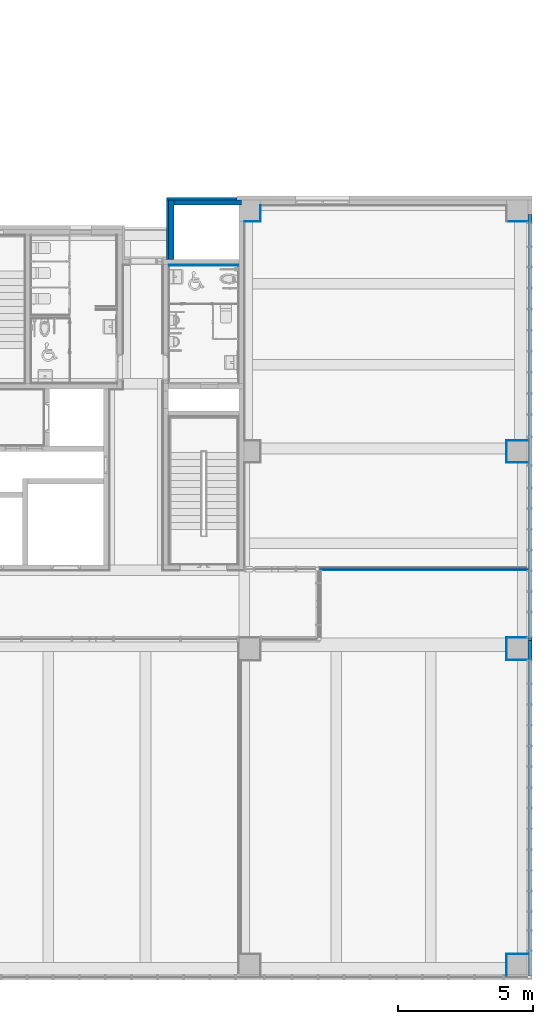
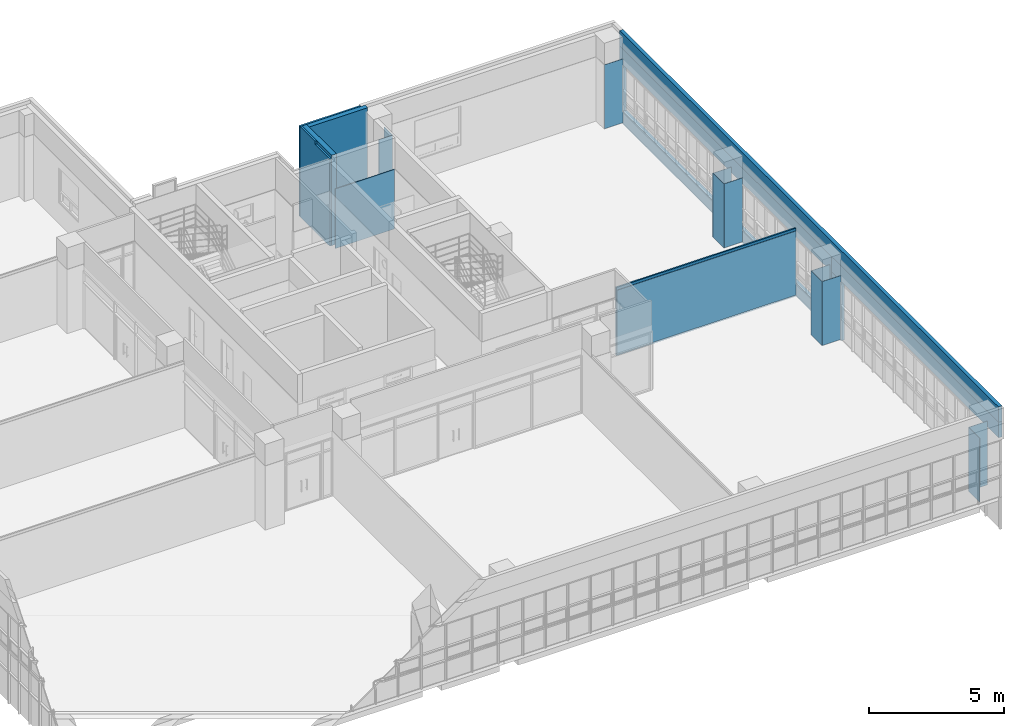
# One storey, part 64 of 81: 22 walls, 5 openings.
"""IFC2X3 building model written with IfcOpenShell, lengths in millimetres."""

import ifcopenshell
import ifcopenshell.guid

model = None  # the IFC model being written
_history = None  # IfcOwnerHistory: only IFC2X3 demands one
_inside = {}  # id of a spatial element -> (the spatial element, [elements in it])
_under = {}  # id of a project, library or spatial element -> (it, [spatial elements below it])
_declared = {}  # id of a project -> (the project, [libraries it declares])
_typed = {}  # id of a type object -> (the type object, [elements of that type])
_made_of = {}  # id of a material, layer set ... -> (it, [elements and type objects made of it])


def new_model(schema):
    """Start an empty IFC model of exactly this schema.

    Asked for "IFC4X3", IfcOpenShell would pick the latest addendum, in which some entities
    have other attributes; the version numbers below select the first issue.
    IFC2X3 requires an IfcOwnerHistory on every rooted entity: one is made here for all.
    """
    global model, _history
    if schema == "IFC4X3":
        model = ifcopenshell.file(schema_version=(4, 3, 0, 0))
    else:
        model = ifcopenshell.file(schema=schema)
    _inside.clear()
    _under.clear()
    _declared.clear()
    _typed.clear()
    _made_of.clear()
    _history = None
    if model.schema == "IFC2X3":
        org = make("IfcOrganization", Name="unknown")
        user = make(
            "IfcPersonAndOrganization",
            ThePerson=make("IfcPerson", FamilyName="unknown"),
            TheOrganization=org,
        )
        app = make(
            "IfcApplication",
            ApplicationDeveloper=org,
            Version="unknown",
            ApplicationFullName="unknown",
            ApplicationIdentifier="unknown",
        )
        _history = make(
            "IfcOwnerHistory",
            OwningUser=user,
            OwningApplication=app,
            ChangeAction="ADDED",
            CreationDate=0,
        )
    return model


def make(cls, **values):
    """One entity of the class cls with the attributes given. An attribute that is None is left unset."""
    return model.create_entity(
        cls, **{name: value for name, value in values.items() if value is not None}
    )


def entity(cls, *values):
    """Any entity or typed value of the class cls, its attributes in the order of the schema. None: left unset."""
    e = model.create_entity(cls)
    for i, value in enumerate(values):
        if value is not None:
            e[i] = value
    return e


def rooted(cls, **values):
    """An entity with a GlobalId (a new one), such as an element, a storey or a relation."""
    return make(cls, GlobalId=ifcopenshell.guid.new(), OwnerHistory=_history, **values)


def si_unit(unit_type, name, prefix=None):
    """IfcSIUnit, for example si_unit("LENGTHUNIT", "METRE", prefix="MILLI")."""
    return make("IfcSIUnit", UnitType=unit_type, Prefix=prefix, Name=name)


def converted_unit(unit_type, name, factor, base, dimensions=None, offset=None):
    """IfcConversionBasedUnit, such as the inch: factor (a typed value) times the base unit."""
    return make(
        "IfcConversionBasedUnit"
        if offset is None
        else "IfcConversionBasedUnitWithOffset",
        ConversionOffset=offset,
        Dimensions=None
        if dimensions is None
        else entity("IfcDimensionalExponents", *dimensions),
        UnitType=unit_type,
        Name=name,
        ConversionFactor=make(
            "IfcMeasureWithUnit", ValueComponent=factor, UnitComponent=base
        ),
    )


def derived_unit(unit_type, elements):
    """IfcDerivedUnit: a product of units, each with its exponent."""
    return make(
        "IfcDerivedUnit",
        Elements=[
            make("IfcDerivedUnitElement", Unit=unit, Exponent=power)
            for unit, power in elements
        ],
        UnitType=unit_type,
    )


def assignment(units):
    """IfcUnitAssignment: the units of a project."""
    return None if units is None else make("IfcUnitAssignment", Units=units)


def point(xyz):
    """IfcCartesianPoint."""
    return None if xyz is None else make("IfcCartesianPoint", Coordinates=xyz)


def direction(xyz):
    """IfcDirection."""
    return None if xyz is None else make("IfcDirection", DirectionRatios=xyz)


def frame(location, z_axis=None, x_axis=None):
    """IfcAxis2Placement3D, a coordinate frame: its origin and axes. An axis left out is left unset."""
    return make(
        "IfcAxis2Placement3D",
        Location=point(location),
        Axis=direction(z_axis),
        RefDirection=direction(x_axis),
    )


def frame_2d(location, x_axis=None):
    """IfcAxis2Placement2D, a coordinate frame in the plane: its origin and x axis."""
    return make(
        "IfcAxis2Placement2D", Location=point(location), RefDirection=direction(x_axis)
    )


def origin():
    """The frame at (0, 0, 0) with its axes left unset."""
    return frame((0.0, 0.0, 0.0))


def place(relative_to, where):
    """IfcLocalPlacement: puts the frame where relative to a parent placement (None: the world)."""
    return make(
        "IfcLocalPlacement", PlacementRelTo=relative_to, RelativePlacement=where
    )


def context(
    kind, dimensions, precision=None, world=None, true_north=None, identifier=None
):
    """IfcGeometricRepresentationContext, for example the 3D "Model" context."""
    return make(
        "IfcGeometricRepresentationContext",
        ContextIdentifier=identifier,
        ContextType=kind,
        CoordinateSpaceDimension=dimensions,
        Precision=precision,
        WorldCoordinateSystem=world,
        TrueNorth=true_north,
    )


def subcontext(parent, identifier, kind, view, scale=None):
    """IfcGeometricRepresentationSubContext, for example "Body" below "Model"."""
    return make(
        "IfcGeometricRepresentationSubContext",
        ContextIdentifier=identifier,
        ContextType=kind,
        ParentContext=parent,
        TargetScale=scale,
        TargetView=view,
    )


def project(units=None, contexts=None):
    """IfcProject with its units and contexts."""
    return rooted(
        "IfcProject",
        Name="project",
        RepresentationContexts=contexts,
        UnitsInContext=assignment(units),
    )


def spatial(cls, under=None, at=None, **own):
    """A site, building, storey or space (cls), placed at a placement, below another one or the project."""
    s = rooted(cls, ObjectPlacement=at, **own)
    if under is not None:
        _under.setdefault(under.id(), (under, []))[1].append(s)
    return s


def polyline(points):
    """IfcPolyline through the points."""
    return make("IfcPolyline", Points=[point(p) for p in points])


def profile(cls, at=None, kind="AREA", **sizes):
    """A parametric profile (cls). Its sizes go by their IFC names, for example OverallWidth=200.0."""
    return make(cls, ProfileType=kind, Position=at, **sizes)


def rectangle(**sizes):
    """IfcRectangleProfileDef."""
    return profile("IfcRectangleProfileDef", **sizes)


def outline(outer, holes=None, kind="AREA"):
    """IfcArbitraryClosedProfileDef: a profile drawn as a closed curve; with holes, ...WithVoids."""
    if holes is None:
        return make("IfcArbitraryClosedProfileDef", ProfileType=kind, OuterCurve=outer)
    return make(
        "IfcArbitraryProfileDefWithVoids",
        ProfileType=kind,
        OuterCurve=outer,
        InnerCurves=holes,
    )


def extrude(swept, where, along, depth):
    """IfcExtrudedAreaSolid: the profile swept, set in the frame where, extruded along a direction by depth."""
    return make(
        "IfcExtrudedAreaSolid",
        SweptArea=swept,
        Position=where,
        ExtrudedDirection=direction(along),
        Depth=depth,
    )


def clip(a, b, op="DIFFERENCE"):
    """IfcBooleanClippingResult: the solid a cut by the half space b."""
    return make(
        "IfcBooleanClippingResult", Operator=op, FirstOperand=a, SecondOperand=b
    )


def bounded_halfspace(plane, agree, where, boundary):
    """IfcPolygonalBoundedHalfSpace: a half space limited to a polygon's prism."""
    return make(
        "IfcPolygonalBoundedHalfSpace",
        BaseSurface=make("IfcPlane", Position=plane),
        AgreementFlag=agree,
        Position=where,
        PolygonalBoundary=boundary,
    )


def shape(context_of_items, identifier, shape_type, items):
    """IfcShapeRepresentation: the items that make up one representation, for example the "Body"."""
    return make(
        "IfcShapeRepresentation",
        ContextOfItems=context_of_items,
        RepresentationIdentifier=identifier,
        RepresentationType=shape_type,
        Items=items,
    )


def material(Name=None, Category=None):
    """IfcMaterial."""
    return make("IfcMaterial", Name=Name, Category=Category)


def layer(
    of_material, thickness, ventilated=None, Name=None, Category=None, Priority=None
):
    """IfcMaterialLayer: one layer of a wall or slab, of a material (None: an air gap)."""
    return make(
        "IfcMaterialLayer",
        Material=of_material,
        LayerThickness=thickness,
        IsVentilated=ventilated,
        Name=Name,
        Category=Category,
        Priority=Priority,
    )


def layer_set(layers, Name=None):
    """IfcMaterialLayerSet."""
    return make("IfcMaterialLayerSet", MaterialLayers=layers, LayerSetName=Name)


def layer_usage(for_layer_set, set_direction, sense, offset, extent=None):
    """IfcMaterialLayerSetUsage: how a layer set lies in its element."""
    return make(
        "IfcMaterialLayerSetUsage",
        ForLayerSet=for_layer_set,
        LayerSetDirection=set_direction,
        DirectionSense=sense,
        OffsetFromReferenceLine=offset,
        ReferenceExtent=extent,
    )


def made_of(thing, what):
    """Note that an element or type object is made of a material, layer set ...; save() writes the relation."""
    if what is not None:
        _made_of.setdefault(what.id(), (what, []))[1].append(thing)
    return thing


def type_object(cls, material=None, **own):
    """A type object (cls), such as IfcWallType, which elements share."""
    return made_of(rooted(cls, **own), material)


def element(
    cls,
    number,
    at=None,
    inside=None,
    cuts=None,
    type_object=None,
    material=None,
    context=None,
    identifier="Body",
    shape_type=None,
    held_by="IfcProductDefinitionShape",
    body=None,
    shapes=None,
    **own,
):
    """One element of the class cls, such as IfcWall. Its Tag is "e" and its number.

    at: its placement. inside: the storey or other place that contains it. cuts: it is an
    opening in that element (IfcRelVoidsElement). A single representation is given by context,
    identifier, shape_type and body (its items); several are given by shapes. held_by: the class
    of the entity that holds the representations. save() writes the other relations.
    """
    e = rooted(cls, Tag="e%d" % number, ObjectPlacement=at, **own)
    if body is not None:
        shapes = [shape(context, identifier, shape_type, body)]
    if shapes is not None:
        e.Representation = make(held_by, Representations=shapes)
    if inside is not None:
        _inside.setdefault(inside.id(), (inside, []))[1].append(e)
    if cuts is not None:
        rooted(
            "IfcRelVoidsElement", RelatingBuildingElement=cuts, RelatedOpeningElement=e
        )
    if type_object is not None:
        _typed.setdefault(type_object.id(), (type_object, []))[1].append(e)
    return made_of(e, material)


def aggregate(whole, parts):
    """IfcRelAggregates: a whole, such as a stair, and the parts it consists of."""
    return rooted("IfcRelAggregates", RelatingObject=whole, RelatedObjects=parts)


def save(model, path):
    """Write the relations noted so far, then the file.

    IfcRelAggregates (storeys below a building ...), IfcRelContainedInSpatialStructure (elements
    in a storey), IfcRelDefinesByType, IfcRelAssociatesMaterial and IfcRelDeclares: one each for
    every whole, place, type object, material and project.
    """
    for whole, parts in _under.values():
        aggregate(whole, parts)
    for where, things in _inside.values():
        rooted(
            "IfcRelContainedInSpatialStructure",
            RelatedElements=things,
            RelatingStructure=where,
        )
    for kind, things in _typed.values():
        rooted("IfcRelDefinesByType", RelatedObjects=things, RelatingType=kind)
    for what, things in _made_of.values():
        rooted("IfcRelAssociatesMaterial", RelatedObjects=things, RelatingMaterial=what)
    for by, libraries in _declared.values():
        rooted("IfcRelDeclares", RelatingContext=by, RelatedDefinitions=libraries)
    model.write(path)


model = new_model("IFC2X3")

# Units and contexts
model_context = context("Model", 3, precision=0.01, world=origin(), true_north=direction((6.123031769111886e-17, 1.0)))
body_context = subcontext(model_context, "Body", "Model", "MODEL_VIEW")
ifc_project = project(units=[si_unit("LENGTHUNIT", "METRE", prefix="MILLI"), si_unit("AREAUNIT", "SQUARE_METRE"), si_unit("VOLUMEUNIT", "CUBIC_METRE"), converted_unit("PLANEANGLEUNIT", "DEGREE", entity("IfcRatioMeasure", 0.017453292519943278), si_unit("PLANEANGLEUNIT", "RADIAN"), dimensions=[0, 0, 0, 0, 0, 0, 0]), si_unit("MASSUNIT", "GRAM", prefix="KILO"), derived_unit("MASSDENSITYUNIT", [(si_unit("MASSUNIT", "GRAM", prefix="KILO"), 1), (si_unit("LENGTHUNIT", "METRE"), -3)]), derived_unit("MOMENTOFINERTIAUNIT", [(si_unit("LENGTHUNIT", "METRE"), 4)]), si_unit("TIMEUNIT", "SECOND"), si_unit("FREQUENCYUNIT", "HERTZ"), si_unit("THERMODYNAMICTEMPERATUREUNIT", "DEGREE_CELSIUS"), derived_unit("THERMALTRANSMITTANCEUNIT", [(si_unit("MASSUNIT", "GRAM", prefix="KILO"), 1), (si_unit("THERMODYNAMICTEMPERATUREUNIT", "KELVIN"), -1), (si_unit("TIMEUNIT", "SECOND"), -3)]), derived_unit("VOLUMETRICFLOWRATEUNIT", [(si_unit("LENGTHUNIT", "METRE"), 3), (si_unit("TIMEUNIT", "SECOND"), -1)]), derived_unit("MASSFLOWRATEUNIT", [(si_unit("MASSUNIT", "GRAM", prefix="KILO"), 1), (si_unit("TIMEUNIT", "SECOND"), -1)]), derived_unit("ROTATIONALFREQUENCYUNIT", [(si_unit("TIMEUNIT", "SECOND"), -1)]), si_unit("ELECTRICCURRENTUNIT", "AMPERE"), si_unit("ELECTRICVOLTAGEUNIT", "VOLT"), si_unit("POWERUNIT", "WATT"), si_unit("FORCEUNIT", "NEWTON", prefix="KILO"), si_unit("ILLUMINANCEUNIT", "LUX"), si_unit("LUMINOUSFLUXUNIT", "LUMEN"), si_unit("LUMINOUSINTENSITYUNIT", "CANDELA"), derived_unit("USERDEFINED", [(si_unit("MASSUNIT", "GRAM", prefix="KILO"), -1), (si_unit("LENGTHUNIT", "METRE"), -2), (si_unit("TIMEUNIT", "SECOND"), 3), (si_unit("LUMINOUSFLUXUNIT", "LUMEN"), 1)]), derived_unit("SOUNDPOWERUNIT", [(si_unit("MASSUNIT", "GRAM", prefix="KILO"), 1), (si_unit("LENGTHUNIT", "METRE"), 2), (si_unit("TIMEUNIT", "SECOND"), -3)]), derived_unit("SOUNDPRESSUREUNIT", [(si_unit("MASSUNIT", "GRAM", prefix="KILO"), 1), (si_unit("LENGTHUNIT", "METRE"), -1), (si_unit("TIMEUNIT", "SECOND"), -2)]), derived_unit("LINEARVELOCITYUNIT", [(si_unit("LENGTHUNIT", "METRE"), 1), (si_unit("TIMEUNIT", "SECOND"), -1)]), si_unit("PRESSUREUNIT", "PASCAL"), derived_unit("USERDEFINED", [(si_unit("LENGTHUNIT", "METRE"), -2), (si_unit("MASSUNIT", "GRAM", prefix="KILO"), 1), (si_unit("TIMEUNIT", "SECOND"), -2)]), derived_unit("LINEARFORCEUNIT", [(si_unit("MASSUNIT", "GRAM", prefix="KILO"), 1), (si_unit("LENGTHUNIT", "METRE"), 1), (si_unit("TIMEUNIT", "SECOND"), -2), (si_unit("LENGTHUNIT", "METRE"), -1)]), derived_unit("PLANARFORCEUNIT", [(si_unit("MASSUNIT", "GRAM", prefix="KILO"), 1), (si_unit("LENGTHUNIT", "METRE"), 1), (si_unit("TIMEUNIT", "SECOND"), -2), (si_unit("LENGTHUNIT", "METRE"), -2)])], contexts=[model_context])

# Site, building, storey
site_placement = place(None, frame((-14167.972527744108, -657.2125860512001, 0.0)))
site = spatial("IfcSite", under=ifc_project, at=site_placement, Name="Default", CompositionType="ELEMENT")
building_placement = place(site_placement, origin())
building = spatial("IfcBuilding", under=site, at=building_placement, Name="Sample Building", CompositionType="ELEMENT")
storey_placement = place(building_placement, frame((0.0, 0.0, 13400.0)))
storey = spatial("IfcBuildingStorey", under=building, at=storey_placement, Name="지상 4층", CompositionType="ELEMENT", Elevation=13400.00000000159)

# Walls
ifc_material_1 = material(Name="KBIMS-콘크리트")
ifc_layer_1 = layer(ifc_material_1, 200.0)
ifc_layer_set_1 = layer_set([ifc_layer_1], Name="기본 벽:WA111-철근콘크리트구조 벽 200mm_CW1")
ifc_layer_usage_1 = layer_usage(ifc_layer_set_1, "AXIS2", "NEGATIVE", 100.0)
wall_type_1 = type_object("IfcWallType", Name="기본 벽:WA111-철근콘크리트구조 벽 200mm_CW1", PredefinedType="STANDARD", material=ifc_layer_set_1)
wall_1_placement = place(storey_placement, frame((38267.97249112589, 27057.21229514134, -2.36498181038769e-09), z_axis=(0.0, 0.0, 1.0), x_axis=(0.0, 1.0, 0.0)))
element("IfcWallStandardCase", 1, at=wall_1_placement, inside=storey, type_object=wall_type_1, material=ifc_layer_usage_1, Name="기본 벽:WA111-철근콘크리트구조 벽 200mm_CW1", ObjectType="기본 벽:WA111-철근콘크리트구조 벽 200mm_CW1", context=body_context, shape_type="SweptSolid", body=[
    extrude(rectangle(XDim=2200.000012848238, YDim=199.99999999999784, at=frame_2d((1100.000006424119, 0.0), x_axis=(-1.0, 0.0))), origin(), (0.0, 0.0, 1.0), 4100.000000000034),
])
ifc_layer_usage_2 = layer_usage(ifc_layer_set_1, "AXIS2", "NEGATIVE", 100.0)
wall_2_placement = place(storey_placement, frame((38367.97249112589, 29157.21230798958, -2.36498181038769e-09)))
element("IfcWallStandardCase", 2, at=wall_2_placement, inside=storey, type_object=wall_type_1, material=ifc_layer_usage_2, Name="기본 벽:WA111-철근콘크리트구조 벽 200mm_CW1", ObjectType="기본 벽:WA111-철근콘크리트구조 벽 200mm_CW1", context=body_context, shape_type="SweptSolid", body=[
    extrude(rectangle(XDim=2499.991307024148, YDim=199.99999999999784, at=frame_2d((1249.995653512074, 0.0), x_axis=(-1.0, 0.0))), origin(), (0.0, 0.0, 1.0), 4100.000000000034),
])
ifc_material_2 = material(Name="KBIMS-화강석 잔다듬")
ifc_layer_2 = layer(ifc_material_2, 80.0)
ifc_layer_set_2 = layer_set([ifc_layer_2], Name="기본 벽:WA313-화강석잔다듬 벽 (30, 건식50) 80mm")
ifc_layer_usage_3 = layer_usage(ifc_layer_set_2, "AXIS2", "POSITIVE", -40.0)
wall_type_2 = type_object("IfcWallType", Name="기본 벽:WA313-화강석잔다듬 벽 (30, 건식50) 80mm", PredefinedType="STANDARD", material=ifc_layer_set_2)
wall_3_placement = place(storey_placement, frame((40692.96379815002, 29297.212295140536, -2.3000097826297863e-09), z_axis=(0.0, 0.0, 1.0), x_axis=(-1.0, 0.0, 0.0)))
element("IfcWallStandardCase", 3, at=wall_3_placement, inside=storey, type_object=wall_type_2, material=ifc_layer_usage_3, Name="기본 벽:WA313-화강석잔다듬 벽 (30, 건식50) 80mm", ObjectType="기본 벽:WA313-화강석잔다듬 벽 (30, 건식50) 80mm", context=body_context, shape_type="SweptSolid", body=[
    extrude(rectangle(XDim=2604.991307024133, YDim=79.99999999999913, at=frame_2d((1302.4956535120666, 6.750155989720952e-14), x_axis=(-1.0, 0.0))), origin(), (0.0, 0.0, 1.0), 4099.999999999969),
])
ifc_layer_usage_4 = layer_usage(ifc_layer_set_2, "AXIS2", "POSITIVE", -40.0)
wall_4_placement = place(storey_placement, frame((38127.97249112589, 29257.21229514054, -2.3000097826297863e-09), z_axis=(0.0, 0.0, 1.0), x_axis=(0.0, -1.0, 0.0)))
element("IfcWallStandardCase", 4, at=wall_4_placement, inside=storey, type_object=wall_type_2, material=ifc_layer_usage_4, Name="기본 벽:WA313-화강석잔다듬 벽 (30, 건식50) 80mm", ObjectType="기본 벽:WA313-화강석잔다듬 벽 (30, 건식50) 80mm", context=body_context, shape_type="Clipping", body=[
    clip(clip(extrude(rectangle(XDim=2199.999999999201, YDim=79.99999999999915, at=frame_2d((1099.9999999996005, 2.2737367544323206e-13), x_axis=(-1.0, 0.0))), origin(), (0.0, 0.0, 1.0), 4099.999999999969), bounded_halfspace(frame((1100.0001779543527, 40.0, 3950.0), z_axis=(0.0, 0.0, -1.0), x_axis=(0.0, 1.0, 0.0)), True, frame((1100.0001779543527, 40.0, 3950.0), z_axis=(0.0, 0.0, -1.0), x_axis=(0.0, 1.0, 0.0)), polyline([(0.0, 0.0), (-2.6400300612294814e-09, 335279.94575926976), (-24384.0, 335279.94575926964), (-24384.0, 310895.94575926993), (-24384.0, 0.0), (0.0, 0.0)]))), bounded_halfspace(frame((1100.0001779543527, -40.0, 3950.0), z_axis=(-1.0, 0.0, 0.0), x_axis=(0.0, 0.0, 1.0)), True, frame((1100.0001779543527, -40.0, 3950.0), z_axis=(-1.0, 0.0, 0.0), x_axis=(0.0, 0.0, 1.0)), polyline([(0.0, 0.0), (45720.0, 0.0), (45720.0, 24384.0), (0.0, 24384.0), (0.0, 0.0)]))),
])
ifc_material_3 = material(Name="WA240-ALC블록벽")
ifc_layer_3 = layer(ifc_material_3, 35.0)
ifc_material_4 = material(Name="WA795-(STEEL)BRACKET")
ifc_layer_4 = layer(ifc_material_4, 65.0)
ifc_material_5 = material(Name="WA821-압출스티로폼 벽 (본드붙임, 비중0.03) 50mm")
ifc_layer_5 = layer(ifc_material_5, 50.0)
ifc_layer_set_3 = layer_set([ifc_layer_3, ifc_layer_4, ifc_layer_5], Name="기본 벽:A2-22-02A-압출스티로폼, BRACKET(STEEL), ALC블록 (150mm)")
ifc_layer_usage_5 = layer_usage(ifc_layer_set_3, "AXIS2", "POSITIVE", -75.0)
wall_type_3 = type_object("IfcWallType", Name="기본 벽:A2-22-02A-압출스티로폼, BRACKET(STEEL), ALC블록 (150mm)", PredefinedType="STANDARD", material=ifc_layer_set_3)
wall_5_placement = place(storey_placement, frame((51542.96382893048, 557.212295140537, 3400.0), z_axis=(0.0, 0.0, 1.0), x_axis=(0.0, 1.0, 0.0)))
element("IfcWallStandardCase", 5, at=wall_5_placement, inside=storey, type_object=wall_type_3, material=ifc_layer_usage_5, Name="기본 벽:A2-22-02A-압출스티로폼, BRACKET(STEEL), ALC블록 (150mm)", ObjectType="기본 벽:A2-22-02A-압출스티로폼, BRACKET(STEEL), ALC블록 (150mm)", context=body_context, shape_type="SweptSolid", body=[
    extrude(rectangle(XDim=28150.000087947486, YDim=150.00000000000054, at=frame_2d((14075.000043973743, 0.0), x_axis=(-1.0, 0.0))), origin(), (0.0, 0.0, 1.0), 700.0000000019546),
])

# Wall, opening
ifc_layer_usage_6 = layer_usage(ifc_layer_set_3, "AXIS2", "POSITIVE", -75.0)
wall_6_placement = place(storey_placement, frame((51542.96382893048, 12957.212586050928, 0.0), z_axis=(0.0, 0.0, 1.0), x_axis=(0.0, 1.0, 0.0)))
wall_6 = element("IfcWallStandardCase", 6, at=wall_6_placement, inside=storey, type_object=wall_type_3, material=ifc_layer_usage_6, Name="기본 벽:A2-22-02A-압출스티로폼, BRACKET(STEEL), ALC블록 (150mm)", ObjectType="기본 벽:A2-22-02A-압출스티로폼, BRACKET(STEEL), ALC블록 (150mm)", context=body_context, shape_type="SweptSolid", body=[
    extrude(rectangle(XDim=15749.999797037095, YDim=150.00000000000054, at=frame_2d((7874.9998985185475, 0.0), x_axis=(-1.0, 0.0))), origin(), (0.0, 0.0, 1.0), 3399.9999999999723),
])
opening_1_placement = place(wall_6_placement, origin())
element("IfcOpeningElement", 7, at=opening_1_placement, cuts=wall_6, Name="기본 벽:A2-22-02A-압출스티로폼, BRACKET(STEEL), ALC블록 (150mm)", ObjectType="Opening", context=body_context, shape_type="SweptSolid", body=[
    extrude(rectangle(XDim=2099.9999999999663, YDim=15382.0003218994, at=frame_2d((0.0, -1.0231815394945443e-12), x_axis=(0.0, 1.0))), frame((7790.999957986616, -227.4000000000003, 1650.0), z_axis=(0.0, 1.0, 0.0), x_axis=(-1.0, 0.0, 0.0)), (0.0, 0.0, 1.0), 454.8000000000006),
])

# Wall, openings
ifc_material_6 = material(Name="KBIMS-DRY WALL")
ifc_layer_6 = layer(ifc_material_6, 12.5)
ifc_material_7 = material(Name="KBIMS-경량철골벽틀")
ifc_layer_7 = layer(ifc_material_7, 50.0)
ifc_layer_set_4 = layer_set([ifc_layer_6, ifc_layer_7], Name="기본 벽:WA731-DRY WALL(C50, GS12.5mm) (1겹한면, GW50mm) 62.5mm")
ifc_layer_usage_7 = layer_usage(ifc_layer_set_4, "AXIS2", "NEGATIVE", 31.250000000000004)
wall_type_4 = type_object("IfcWallType", Name="기본 벽:WA731-DRY WALL(C50, GS12.5mm) (1겹한면, GW50mm) 62.5mm", PredefinedType="STANDARD", material=ifc_layer_set_4)
wall_7_placement = place(storey_placement, frame((43762.972491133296, 15615.962586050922, 0.0)))
wall_7 = element("IfcWallStandardCase", 8, at=wall_7_placement, inside=storey, type_object=wall_type_4, material=ifc_layer_usage_7, Name="기본 벽:WA731-DRY WALL(C50, GS12.5mm) (1겹한면, GW50mm) 62.5mm", ObjectType="기본 벽:WA731-DRY WALL(C50, GS12.5mm) (1겹한면, GW50mm) 62.5mm", context=body_context, shape_type="SweptSolid", body=[
    extrude(rectangle(XDim=7704.9913377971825, YDim=62.50000000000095, at=frame_2d((3852.4956688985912, -1.1901590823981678e-12), x_axis=(-1.0, 0.0))), origin(), (0.0, 0.0, 1.0), 3099.999999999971),
])
opening_2_placement = place(wall_7_placement, origin())
element("IfcOpeningElement", 9, at=opening_2_placement, cuts=wall_7, Name="기본 벽:WA731-DRY WALL(C50, GS12.5mm) (1겹한면, GW50mm) 62.5mm", ObjectType="Opening", context=body_context, shape_type="SweptSolid", body=[
    extrude(outline(polyline([(-1255.0065197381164, -1446.2500000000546), (1495.0021732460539, -1446.2500000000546), (1495.0021732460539, 1173.7499999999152), (630.0021732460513, 1173.7499999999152), (630.0021732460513, -901.2499999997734), (-869.9978267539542, -901.2499999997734), (-869.9978267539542, 1173.7499999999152), (-1255.0065197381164, 1173.7499999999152), (-1255.0065197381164, -1446.2500000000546)])), frame((-1540.0021732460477, -183.6499999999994, 1253.7499999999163), z_axis=(0.0, 1.0, 0.0), x_axis=(1.0, 0.0, 0.0)), (0.0, 0.0, 1.0), 367.300000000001),
])
opening_3_placement = place(wall_7_placement, origin())
element("IfcOpeningElement", 10, at=opening_3_placement, cuts=wall_7, Name="기본 벽:WA731-DRY WALL(C50, GS12.5mm) (1겹한면, GW50mm) 62.5mm", ObjectType="Opening", context=body_context, shape_type="SweptSolid", body=[
    extrude(rectangle(XDim=2099.9999999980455, YDim=1500.0000000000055, at=frame_2d((-8.640199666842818e-12, 0.0), x_axis=(0.0, 1.0))), frame((-1660.0, -1582.7499999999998, 1105.0), z_axis=(0.0, 1.0, 0.0), x_axis=(-1.0, 0.0, 0.0)), (0.0, 0.0, 1.0), 3048.0),
])

# Walls
ifc_material_8 = material(Name="WA785-금속외장패널")
ifc_layer_8 = layer(ifc_material_8, 25.0)
ifc_material_9 = material(Name="WA793-금속 긴결철물 벽")
ifc_layer_9 = layer(ifc_material_9, 75.0)
ifc_layer_10 = layer(ifc_material_5, 50.0)
ifc_layer_set_5 = layer_set([ifc_layer_8, ifc_layer_9, ifc_layer_10], Name="기본 벽:A2-26-01A-압출스티로폼, 금속 긴결철물, 금속외장패널 (150mm)")
ifc_layer_usage_8 = layer_usage(ifc_layer_set_5, "AXIS2", "POSITIVE", -75.0)
wall_type_5 = type_object("IfcWallType", Name="기본 벽:A2-26-01A-압출스티로폼, 금속 긴결철물, 금속외장패널 (150mm)", PredefinedType="STANDARD", material=ifc_layer_set_5)
wall_8_placement = place(storey_placement, frame((51542.96382893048, 557.2122951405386, 2700.0), z_axis=(0.0, 0.0, 1.0), x_axis=(0.0, 1.0, 0.0)))
element("IfcWallStandardCase", 11, at=wall_8_placement, inside=storey, type_object=wall_type_5, material=ifc_layer_usage_8, Name="기본 벽:A2-26-01A-압출스티로폼, 금속 긴결철물, 금속외장패널 (150mm)", ObjectType="기본 벽:A2-26-01A-압출스티로폼, 금속 긴결철물, 금속외장패널 (150mm)", context=body_context, shape_type="SweptSolid", body=[
    extrude(rectangle(XDim=150.00000000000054, YDim=12400.00029091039, at=frame_2d((0.0, 1833.3217279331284), x_axis=(1.0, 0.0))), frame((8033.321873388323, 0.0, 0.0), z_axis=(0.0, 0.0, 1.0), x_axis=(0.0, 1.0, 0.0)), (0.0, 0.0, 1.0), 700.0000000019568),
])
ifc_layer_usage_9 = layer_usage(ifc_layer_set_5, "AXIS2", "POSITIVE", -75.0)
wall_9_placement = place(storey_placement, frame((51542.96382893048, 12257.177624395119, 0.0), z_axis=(0.0, 0.0, 1.0), x_axis=(0.0, 1.0, 0.0)))
element("IfcWallStandardCase", 12, at=wall_9_placement, inside=storey, type_object=wall_type_5, material=ifc_layer_usage_9, Name="기본 벽:A2-26-01A-압출스티로폼, 금속 긴결철물, 금속외장패널 (150mm)", ObjectType="기본 벽:A2-26-01A-압출스티로폼, 금속 긴결철물, 금속외장패널 (150mm)", context=body_context, shape_type="SweptSolid", body=[
    extrude(rectangle(XDim=700.0349616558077, YDim=150.00000000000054, at=frame_2d((350.01748082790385, 0.0), x_axis=(-1.0, 0.0))), origin(), (0.0, 0.0, 1.0), 2699.9999999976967),
])
ifc_material_10 = material(Name="WA611-수성페인트 (내부) 벽 (3회)")
ifc_layer_11 = layer(ifc_material_10, 1.0)
ifc_material_11 = material(Name="WA551-시멘트모르타르 (내부) 벽 18mm")
ifc_layer_12 = layer(ifc_material_11, 16.0)
ifc_material_12 = material(Name="WA555-콘크리트면정리 벽 (내부)")
ifc_layer_13 = layer(ifc_material_12, 1.0)
ifc_layer_set_6 = layer_set([ifc_layer_11, ifc_layer_12, ifc_layer_13], Name="기본 벽:A1-32-06A-콘크리트면정리, 시멘트모르타르(미장용), 수성페인트(내부) (18mm)")
ifc_layer_usage_10 = layer_usage(ifc_layer_set_6, "AXIS2", "POSITIVE", -9.000000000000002)
wall_type_6 = type_object("IfcWallType", Name="기본 벽:A1-32-06A-콘크리트면정리, 시멘트모르타르(미장용), 수성페인트(내부) (18mm)", PredefinedType="STANDARD", material=ifc_layer_set_6)
wall_10_placement = place(storey_placement, frame((40985.96381659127, 28448.211898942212, 80.0)))
element("IfcWallStandardCase", 13, at=wall_10_placement, inside=storey, type_object=wall_type_6, material=ifc_layer_usage_10, Name="기본 벽:A1-32-06A-콘크리트면정리, 시멘트모르타르(미장용), 수성페인트(내부) (18mm)", ObjectType="기본 벽:A1-32-06A-콘크리트면정리, 시멘트모르타르(미장용), 수성페인트(내부) (18mm)", context=body_context, shape_type="SweptSolid", body=[
    extrude(rectangle(XDim=599.0086745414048, YDim=18.00000000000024, at=frame_2d((299.50433727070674, -2.1662671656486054e-12), x_axis=(-1.0, 0.0))), origin(), (0.0, 0.0, 1.0), 2899.999999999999),
])
ifc_layer_usage_11 = layer_usage(ifc_layer_set_6, "AXIS2", "POSITIVE", -9.000000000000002)
wall_11_placement = place(storey_placement, frame((41575.972491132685, 28457.21189894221, 80.0), z_axis=(0.0, 0.0, 1.0), x_axis=(0.0, 1.0, 0.0)))
element("IfcWallStandardCase", 14, at=wall_11_placement, inside=storey, type_object=wall_type_6, material=ifc_layer_usage_11, Name="기본 벽:A1-32-06A-콘크리트면정리, 시멘트모르타르(미장용), 수성페인트(내부) (18mm)", ObjectType="기본 벽:A1-32-06A-콘크리트면정리, 시멘트모르타르(미장용), 수성페인트(내부) (18mm)", context=body_context, shape_type="SweptSolid", body=[
    extrude(rectangle(XDim=599.9999871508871, YDim=17.999999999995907, at=frame_2d((299.99999357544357, 0.0), x_axis=(-1.0, 0.0))), origin(), (0.0, 0.0, 1.0), 2899.999999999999),
])
ifc_layer_usage_12 = layer_usage(ifc_layer_set_6, "AXIS2", "POSITIVE", -9.000000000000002)
wall_12_placement = place(storey_placement, frame((50667.981214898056, 28448.21198688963, 80.0)))
element("IfcWallStandardCase", 15, at=wall_12_placement, inside=storey, type_object=wall_type_6, material=ifc_layer_usage_12, Name="기본 벽:A1-32-06A-콘크리트면정리, 시멘트모르타르(미장용), 수성페인트(내부) (18mm)", ObjectType="기본 벽:A1-32-06A-콘크리트면정리, 시멘트모르타르(미장용), 수성페인트(내부) (18mm)", context=body_context, shape_type="SweptSolid", body=[
    extrude(rectangle(XDim=800.0000000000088, YDim=18.00000000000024, at=frame_2d((400.0000000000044, -2.1662671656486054e-12), x_axis=(-1.0, 0.0))), origin(), (0.0, 0.0, 1.0), 2899.999999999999),
])
ifc_layer_usage_13 = layer_usage(ifc_layer_set_6, "AXIS2", "POSITIVE", -9.000000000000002)
wall_13_placement = place(storey_placement, frame((51449.98121489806, 20366.211898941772, 80.0), z_axis=(0.0, 0.0, 1.0), x_axis=(-1.0, 0.0, 0.0)))
element("IfcWallStandardCase", 16, at=wall_13_placement, inside=storey, type_object=wall_type_6, material=ifc_layer_usage_13, Name="기본 벽:A1-32-06A-콘크리트면정리, 시멘트모르타르(미장용), 수성페인트(내부) (18mm)", ObjectType="기본 벽:A1-32-06A-콘크리트면정리, 시멘트모르타르(미장용), 수성페인트(내부) (18mm)", context=body_context, shape_type="SweptSolid", body=[
    extrude(rectangle(XDim=799.9999815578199, YDim=18.00000000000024, at=frame_2d((399.99999077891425, -2.1662671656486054e-12), x_axis=(-1.0, 0.0))), origin(), (0.0, 0.0, 1.0), 2899.999999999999),
])
ifc_layer_usage_14 = layer_usage(ifc_layer_set_6, "AXIS2", "POSITIVE", -9.000000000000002)
wall_14_placement = place(storey_placement, frame((50658.981233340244, 20357.211898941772, 80.0), z_axis=(0.0, 0.0, 1.0), x_axis=(0.0, -1.0, 0.0)))
element("IfcWallStandardCase", 17, at=wall_14_placement, inside=storey, type_object=wall_type_6, material=ifc_layer_usage_14, Name="기본 벽:A1-32-06A-콘크리트면정리, 시멘트모르타르(미장용), 수성페인트(내부) (18mm)", ObjectType="기본 벽:A1-32-06A-콘크리트면정리, 시멘트모르타르(미장용), 수성페인트(내부) (18mm)", context=body_context, shape_type="SweptSolid", body=[
    extrude(rectangle(XDim=818.000000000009, YDim=17.999999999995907, at=frame_2d((409.0000000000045, 0.0), x_axis=(-1.0, 0.0))), origin(), (0.0, 0.0, 1.0), 2899.999999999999),
])
ifc_layer_usage_15 = layer_usage(ifc_layer_set_6, "AXIS2", "POSITIVE", -9.000000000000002)
wall_15_placement = place(storey_placement, frame((50667.98123334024, 19548.21189894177, 80.0)))
element("IfcWallStandardCase", 18, at=wall_15_placement, inside=storey, type_object=wall_type_6, material=ifc_layer_usage_15, Name="기본 벽:A1-32-06A-콘크리트면정리, 시멘트모르타르(미장용), 수성페인트(내부) (18mm)", ObjectType="기본 벽:A1-32-06A-콘크리트면정리, 시멘트모르타르(미장용), 수성페인트(내부) (18mm)", context=body_context, shape_type="SweptSolid", body=[
    extrude(rectangle(XDim=781.9999815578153, YDim=18.00000000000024, at=frame_2d((390.99999077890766, -2.1662671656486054e-12), x_axis=(-1.0, 0.0))), origin(), (0.0, 0.0, 1.0), 2899.999999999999),
])
ifc_layer_usage_16 = layer_usage(ifc_layer_set_6, "AXIS2", "POSITIVE", -9.000000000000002)
wall_16_placement = place(storey_placement, frame((51467.97258932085, 13066.212320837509, 80.0), z_axis=(0.0, 0.0, 1.0), x_axis=(-1.0, 0.0, 0.0)))
element("IfcWallStandardCase", 19, at=wall_16_placement, inside=storey, type_object=wall_type_6, material=ifc_layer_usage_16, Name="기본 벽:A1-32-06A-콘크리트면정리, 시멘트모르타르(미장용), 수성페인트(내부) (18mm)", ObjectType="기본 벽:A1-32-06A-콘크리트면정리, 시멘트모르타르(미장용), 수성페인트(내부) (18mm)", context=body_context, shape_type="SweptSolid", body=[
    extrude(rectangle(XDim=817.9913834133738, YDim=18.00000000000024, at=frame_2d((408.9956917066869, -1.0391687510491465e-13), x_axis=(-1.0, 0.0))), origin(), (0.0, 0.0, 1.0), 2899.999999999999),
])
ifc_layer_usage_17 = layer_usage(ifc_layer_set_6, "AXIS2", "POSITIVE", -9.000000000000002)
wall_17_placement = place(storey_placement, frame((50658.981205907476, 13057.212320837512, 80.0), z_axis=(0.0, 0.0, 1.0), x_axis=(0.0, -1.0, 0.0)))
element("IfcWallStandardCase", 20, at=wall_17_placement, inside=storey, type_object=wall_type_6, material=ifc_layer_usage_17, Name="기본 벽:A1-32-06A-콘크리트면정리, 시멘트모르타르(미장용), 수성페인트(내부) (18mm)", ObjectType="기본 벽:A1-32-06A-콘크리트면정리, 시멘트모르타르(미장용), 수성페인트(내부) (18mm)", context=body_context, shape_type="SweptSolid", body=[
    extrude(rectangle(XDim=818.0000000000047, YDim=17.999999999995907, at=frame_2d((409.00000000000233, 0.0), x_axis=(-1.0, 0.0))), origin(), (0.0, 0.0, 1.0), 2899.999999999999),
])
ifc_layer_usage_18 = layer_usage(ifc_layer_set_6, "AXIS2", "POSITIVE", -9.000000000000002)
wall_18_placement = place(storey_placement, frame((50667.981205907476, 12248.212320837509, 80.0)))
element("IfcWallStandardCase", 21, at=wall_18_placement, inside=storey, type_object=wall_type_6, material=ifc_layer_usage_18, Name="기본 벽:A1-32-06A-콘크리트면정리, 시멘트모르타르(미장용), 수성페인트(내부) (18mm)", ObjectType="기본 벽:A1-32-06A-콘크리트면정리, 시멘트모르타르(미장용), 수성페인트(내부) (18mm)", context=body_context, shape_type="SweptSolid", body=[
    extrude(rectangle(XDim=799.9826414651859, YDim=18.000000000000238, at=frame_2d((399.99132073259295, 0.0), x_axis=(-1.0, 0.0))), origin(), (0.0, 0.0, 1.0), 2899.999999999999),
])
ifc_layer_usage_19 = layer_usage(ifc_layer_set_6, "AXIS2", "POSITIVE", -9.000000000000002)
wall_19_placement = place(storey_placement, frame((51467.963847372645, 1366.211898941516, 80.0), z_axis=(0.0, 0.0, 1.0), x_axis=(-1.0, 0.0, 0.0)))
element("IfcWallStandardCase", 22, at=wall_19_placement, inside=storey, type_object=wall_type_6, material=ifc_layer_usage_19, Name="기본 벽:A1-32-06A-콘크리트면정리, 시멘트모르타르(미장용), 수성페인트(내부) (18mm)", ObjectType="기본 벽:A1-32-06A-콘크리트면정리, 시멘트모르타르(미장용), 수성페인트(내부) (18mm)", context=body_context, shape_type="SweptSolid", body=[
    extrude(rectangle(XDim=818.0000092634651, YDim=17.99999999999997, at=frame_2d((409.00000463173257, 1.4832579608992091e-13), x_axis=(-1.0, 0.0))), origin(), (0.0, 0.0, 1.0), 2899.999999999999),
])
ifc_layer_usage_20 = layer_usage(ifc_layer_set_6, "AXIS2", "POSITIVE", -9.000000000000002)
wall_20_placement = place(storey_placement, frame((50658.96383810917, 1357.2118989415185, 80.0), z_axis=(0.0, 0.0, 1.0), x_axis=(0.0, -1.0, 0.0)))
element("IfcWallStandardCase", 23, at=wall_20_placement, inside=storey, type_object=wall_type_6, material=ifc_layer_usage_20, Name="기본 벽:A1-32-06A-콘크리트면정리, 시멘트모르타르(미장용), 수성페인트(내부) (18mm)", ObjectType="기본 벽:A1-32-06A-콘크리트면정리, 시멘트모르타르(미장용), 수성페인트(내부) (18mm)", context=body_context, shape_type="SweptSolid", body=[
    extrude(rectangle(XDim=800.0000128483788, YDim=17.999999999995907, at=frame_2d((400.0000064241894, 0.0), x_axis=(-1.0, 0.0))), origin(), (0.0, 0.0, 1.0), 2899.999999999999),
])

# Wall, openings
ifc_layer_usage_21 = layer_usage(ifc_layer_set_6, "AXIS2", "NEGATIVE", 9.000000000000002)
wall_21_placement = place(storey_placement, frame((51449.981214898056, 15575.67721534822, 80.0), z_axis=(0.0, 0.0, 1.0), x_axis=(-1.0, 0.0, 0.0)))
wall_21 = element("IfcWallStandardCase", 24, at=wall_21_placement, inside=storey, type_object=wall_type_6, material=ifc_layer_usage_21, Name="기본 벽:A1-32-06A-콘크리트면정리, 시멘트모르타르(미장용), 수성페인트(내부) (18mm)", ObjectType="기본 벽:A1-32-06A-콘크리트면정리, 시멘트모르타르(미장용), 수성페인트(내부) (18mm)", context=body_context, shape_type="SweptSolid", body=[
    extrude(rectangle(XDim=7687.008705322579, YDim=18.00000000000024, at=frame_2d((3843.5043526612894, 1.6431300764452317e-13), x_axis=(-1.0, 0.0))), origin(), (0.0, 0.0, 1.0), 2900.000000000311),
])
opening_4_placement = place(wall_21_placement, origin())
element("IfcOpeningElement", 25, at=opening_4_placement, cuts=wall_21, Name="기본 벽:A1-32-06A-콘크리트면정리, 시멘트모르타르(미장용), 수성페인트(내부) (18mm)", ObjectType="Opening", context=body_context, shape_type="SweptSolid", body=[
    extrude(outline(polyline([(-1446.2500000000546, -1255.0065197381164), (1173.7499999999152, -1255.0065197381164), (1173.7499999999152, -869.9978267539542), (-901.2499999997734, -869.9978267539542), (-901.2499999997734, 630.0021732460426), (1173.7499999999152, 630.0021732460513), (1173.7499999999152, 1495.0021732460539), (-1446.2500000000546, 1495.0021732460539), (-1446.2500000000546, -1255.0065197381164)])), frame((9227.010897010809, -161.39999999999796, 1173.7499999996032), z_axis=(0.0, 1.0, 0.0), x_axis=(0.0, 0.0, -1.0)), (0.0, 0.0, 1.0), 322.80000000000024),
])
opening_5_placement = place(wall_21_placement, origin())
element("IfcOpeningElement", 26, at=opening_5_placement, cuts=wall_21, Name="기본 벽:A1-32-06A-콘크리트면정리, 시멘트모르타르(미장용), 수성페인트(내부) (18mm)", ObjectType="Opening", context=body_context, shape_type="SweptSolid", body=[
    extrude(rectangle(XDim=2099.9999999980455, YDim=1499.9999999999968, at=frame_2d((0.0, 4.320099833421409e-12), x_axis=(1.0, 0.0))), frame((9347.008723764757, -1505.535370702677, 1025.0), z_axis=(0.0, 1.0, 0.0), x_axis=(0.0, 0.0, 1.0)), (0.0, 0.0, 1.0), 3048.0),
])

# Wall
ifc_material_13 = material(Name="WA352-도기질타일 벽 200x200")
ifc_layer_14 = layer(ifc_material_13, 8.0)
ifc_material_14 = material(Name="WA551-시멘트모르타르 (내부) 벽 22mm")
ifc_layer_15 = layer(ifc_material_14, 22.0)
ifc_layer_set_7 = layer_set([ifc_layer_14, ifc_layer_15], Name="기본 벽:A1-33-01B-시멘트 모르타르, 도기질타일 (30mm)")
ifc_layer_usage_22 = layer_usage(ifc_layer_set_7, "AXIS2", "NEGATIVE", 15.0)
wall_type_7 = type_object("IfcWallType", Name="기본 벽:A1-33-01B-시멘트 모르타르, 도기질타일 (30mm)", PredefinedType="STANDARD", material=ifc_layer_set_7)
wall_22_placement = place(storey_placement, frame((38197.96379814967, 26842.212295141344, 0.0)))
element("IfcWallStandardCase", 27, at=wall_22_placement, inside=storey, type_object=wall_type_7, material=ifc_layer_usage_22, Name="기본 벽:A1-33-01B-시멘트 모르타르, 도기질타일 (30mm)", ObjectType="기본 벽:A1-33-01B-시멘트 모르타르, 도기질타일 (30mm)", context=body_context, shape_type="SweptSolid", body=[
    extrude(rectangle(XDim=2540.0000000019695, YDim=30.000000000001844, at=frame_2d((1270.0000000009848, 0.0), x_axis=(-1.0, 0.0))), origin(), (0.0, 0.0, 1.0), 2700.0000000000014),
])

save(model, "model.ifc")
